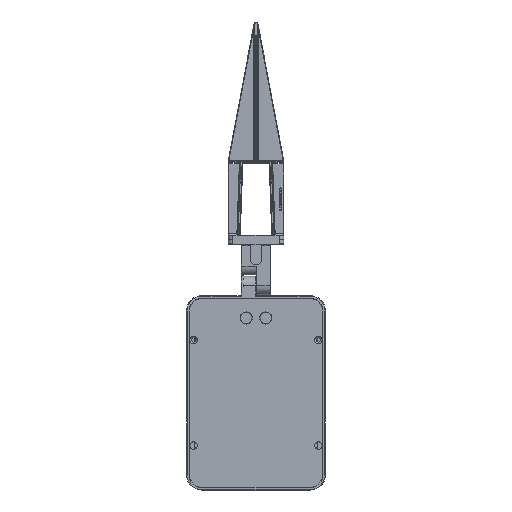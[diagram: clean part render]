
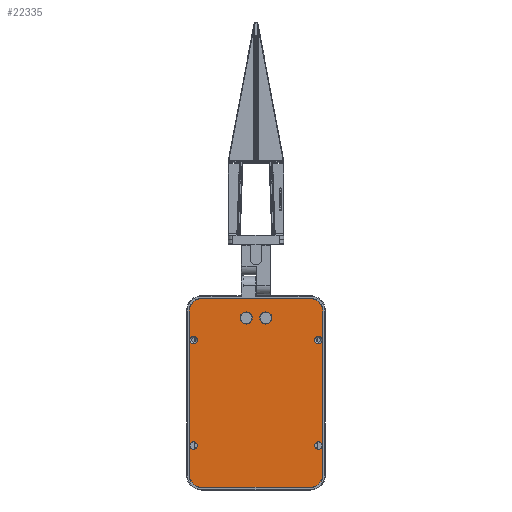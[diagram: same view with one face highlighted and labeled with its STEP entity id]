
A CAD part, front view. The second image highlights one B-rep face of the part: STEP entity #22335.
In plain terms, the highlighted planar face has unit normal (0, -1, 0).
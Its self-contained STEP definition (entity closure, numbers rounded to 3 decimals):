
#9879=CARTESIAN_POINT('',(67.5,0.5,57.));
#9880=DIRECTION('',(0.,-1.,0.));
#9881=DIRECTION('',(1.,0.,0.));
#9882=AXIS2_PLACEMENT_3D('',#9879,#9880,#9881);
#9884=CARTESIAN_POINT('',(67.5,0.5,57.));
#9885=DIRECTION('',(0.,-1.,0.));
#9886=DIRECTION('',(-1.,0.,0.));
#9887=AXIS2_PLACEMENT_3D('',#9884,#9885,#9886);
#9889=CARTESIAN_POINT('',(-67.5,0.5,-57.));
#9890=DIRECTION('',(0.,-1.,0.));
#9891=DIRECTION('',(-1.,0.,0.));
#9892=AXIS2_PLACEMENT_3D('',#9889,#9890,#9891);
#9894=CARTESIAN_POINT('',(-67.5,0.5,-57.));
#9895=DIRECTION('',(0.,-1.,0.));
#9896=DIRECTION('',(1.,0.,0.));
#9897=AXIS2_PLACEMENT_3D('',#9894,#9895,#9896);
#9899=CARTESIAN_POINT('',(-67.5,0.5,57.));
#9900=DIRECTION('',(0.,-1.,0.));
#9901=DIRECTION('',(1.,0.,0.));
#9902=AXIS2_PLACEMENT_3D('',#9899,#9900,#9901);
#9904=CARTESIAN_POINT('',(-67.5,0.5,57.));
#9905=DIRECTION('',(0.,1.,0.));
#9906=DIRECTION('',(1.,0.,0.));
#9907=AXIS2_PLACEMENT_3D('',#9904,#9905,#9906);
#9909=CARTESIAN_POINT('',(67.5,0.5,-57.));
#9910=DIRECTION('',(0.,-1.,0.));
#9911=DIRECTION('',(-1.,0.,0.));
#9912=AXIS2_PLACEMENT_3D('',#9909,#9910,#9911);
#9914=CARTESIAN_POINT('',(67.5,0.5,-57.));
#9915=DIRECTION('',(0.,-1.,0.));
#9916=DIRECTION('',(1.,0.,0.));
#9917=AXIS2_PLACEMENT_3D('',#9914,#9915,#9916);
#9919=CARTESIAN_POINT('',(58.5,0.5,-88.5));
#9920=DIRECTION('',(0.,1.,0.));
#9921=DIRECTION('',(1.,0.,0.));
#9922=AXIS2_PLACEMENT_3D('',#9919,#9920,#9921);
#9924=DIRECTION('',(-1.,0.,0.));
#9925=VECTOR('',#9924,117.);
#9926=CARTESIAN_POINT('',(58.5,0.5,-102.));
#9927=LINE('',#9926,#9925);
#9928=CARTESIAN_POINT('',(-58.5,0.5,-88.5));
#9929=DIRECTION('',(0.,1.,0.));
#9930=DIRECTION('',(0.,0.,-1.));
#9931=AXIS2_PLACEMENT_3D('',#9928,#9929,#9930);
#9933=DIRECTION('',(0.,0.,1.));
#9934=VECTOR('',#9933,177.);
#9935=CARTESIAN_POINT('',(-72.,0.5,-88.5));
#9936=LINE('',#9935,#9934);
#9937=CARTESIAN_POINT('',(-58.5,0.5,88.5));
#9938=DIRECTION('',(0.,1.,0.));
#9939=DIRECTION('',(-1.,0.,0.));
#9940=AXIS2_PLACEMENT_3D('',#9937,#9938,#9939);
#9942=DIRECTION('',(1.,0.,0.));
#9943=VECTOR('',#9942,117.);
#9944=CARTESIAN_POINT('',(-58.5,0.5,102.));
#9945=LINE('',#9944,#9943);
#9946=CARTESIAN_POINT('',(58.5,0.5,88.5));
#9947=DIRECTION('',(0.,1.,0.));
#9948=DIRECTION('',(0.,0.,1.));
#9949=AXIS2_PLACEMENT_3D('',#9946,#9947,#9948);
#9951=DIRECTION('',(0.,0.,-1.));
#9952=VECTOR('',#9951,177.);
#9953=CARTESIAN_POINT('',(72.,0.5,88.5));
#9954=LINE('',#9953,#9952);
#9955=CARTESIAN_POINT('',(-10.65,0.5,81.));
#9956=DIRECTION('',(0.,-1.,0.));
#9957=DIRECTION('',(1.,0.,0.));
#9958=AXIS2_PLACEMENT_3D('',#9955,#9956,#9957);
#9960=CARTESIAN_POINT('',(-10.65,0.5,81.));
#9961=DIRECTION('',(0.,-1.,0.));
#9962=DIRECTION('',(-1.,0.,0.));
#9963=AXIS2_PLACEMENT_3D('',#9960,#9961,#9962);
#9965=CARTESIAN_POINT('',(10.65,0.5,81.));
#9966=DIRECTION('',(0.,-1.,0.));
#9967=DIRECTION('',(1.,0.,0.));
#9968=AXIS2_PLACEMENT_3D('',#9965,#9966,#9967);
#9970=CARTESIAN_POINT('',(10.65,0.5,81.));
#9971=DIRECTION('',(0.,-1.,0.));
#9972=DIRECTION('',(-1.,0.,0.));
#9973=AXIS2_PLACEMENT_3D('',#9970,#9971,#9972);
#19562=CARTESIAN_POINT('',(71.55,0.5,57.));
#19563=CARTESIAN_POINT('',(63.45,0.5,57.));
#19564=VERTEX_POINT('',#19562);
#19565=VERTEX_POINT('',#19563);
#19570=CARTESIAN_POINT('',(58.5,0.5,-102.));
#19571=CARTESIAN_POINT('',(72.,0.5,-88.5));
#19572=VERTEX_POINT('',#19570);
#19573=VERTEX_POINT('',#19571);
#19574=CARTESIAN_POINT('',(72.,0.5,88.5));
#19575=VERTEX_POINT('',#19574);
#19576=CARTESIAN_POINT('',(58.5,0.5,102.));
#19577=VERTEX_POINT('',#19576);
#19578=CARTESIAN_POINT('',(-58.5,0.5,102.));
#19579=VERTEX_POINT('',#19578);
#19580=CARTESIAN_POINT('',(-72.,0.5,88.5));
#19581=VERTEX_POINT('',#19580);
#19582=CARTESIAN_POINT('',(-72.,0.5,-88.5));
#19583=VERTEX_POINT('',#19582);
#19584=CARTESIAN_POINT('',(-58.5,0.5,-102.));
#19585=VERTEX_POINT('',#19584);
#19602=CARTESIAN_POINT('',(-71.55,0.5,-57.));
#19603=CARTESIAN_POINT('',(-63.45,0.5,-57.));
#19604=VERTEX_POINT('',#19602);
#19605=VERTEX_POINT('',#19603);
#19610=CARTESIAN_POINT('',(-71.55,0.5,57.));
#19611=VERTEX_POINT('',#19610);
#19612=CARTESIAN_POINT('',(-63.45,0.5,57.));
#19613=VERTEX_POINT('',#19612);
#19614=CARTESIAN_POINT('',(71.55,0.5,-57.));
#19615=CARTESIAN_POINT('',(63.45,0.5,-57.));
#19616=VERTEX_POINT('',#19614);
#19617=VERTEX_POINT('',#19615);
#19893=CARTESIAN_POINT('',(-17.2,0.5,81.));
#19894=CARTESIAN_POINT('',(-4.1,0.5,81.));
#19895=VERTEX_POINT('',#19893);
#19896=VERTEX_POINT('',#19894);
#19897=CARTESIAN_POINT('',(4.1,0.5,81.));
#19898=CARTESIAN_POINT('',(17.2,0.5,81.));
#19899=VERTEX_POINT('',#19897);
#19900=VERTEX_POINT('',#19898);
#22276=CARTESIAN_POINT('',(0.,0.5,0.));
#22277=DIRECTION('',(0.,1.,0.));
#22278=DIRECTION('',(1.,0.,0.));
#22279=AXIS2_PLACEMENT_3D('',#22276,#22277,#22278);
#22280=PLANE('',#22279);
#22282=ORIENTED_EDGE('',*,*,#22281,.T.);
#22284=ORIENTED_EDGE('',*,*,#22283,.T.);
#22286=ORIENTED_EDGE('',*,*,#22285,.T.);
#22288=ORIENTED_EDGE('',*,*,#22287,.T.);
#22290=ORIENTED_EDGE('',*,*,#22289,.T.);
#22292=ORIENTED_EDGE('',*,*,#22291,.T.);
#22294=ORIENTED_EDGE('',*,*,#22293,.T.);
#22296=ORIENTED_EDGE('',*,*,#22295,.T.);
#22297=EDGE_LOOP('',(#22282,#22284,#22286,#22288,#22290,#22292,#22294,#22296));
#22298=FACE_OUTER_BOUND('',#22297,.F.);
#22300=ORIENTED_EDGE('',*,*,#22299,.T.);
#22302=ORIENTED_EDGE('',*,*,#22301,.T.);
#22303=EDGE_LOOP('',(#22300,#22302));
#22304=FACE_BOUND('',#22303,.F.);
#22306=ORIENTED_EDGE('',*,*,#22305,.T.);
#22308=ORIENTED_EDGE('',*,*,#22307,.F.);
#22309=EDGE_LOOP('',(#22306,#22308));
#22310=FACE_BOUND('',#22309,.F.);
#22312=ORIENTED_EDGE('',*,*,#22311,.T.);
#22314=ORIENTED_EDGE('',*,*,#22313,.T.);
#22315=EDGE_LOOP('',(#22312,#22314));
#22316=FACE_BOUND('',#22315,.F.);
#22318=ORIENTED_EDGE('',*,*,#22317,.T.);
#22320=ORIENTED_EDGE('',*,*,#22319,.T.);
#22321=EDGE_LOOP('',(#22318,#22320));
#22322=FACE_BOUND('',#22321,.F.);
#22324=ORIENTED_EDGE('',*,*,#22323,.T.);
#22326=ORIENTED_EDGE('',*,*,#22325,.T.);
#22327=EDGE_LOOP('',(#22324,#22326));
#22328=FACE_BOUND('',#22327,.F.);
#22330=ORIENTED_EDGE('',*,*,#22329,.T.);
#22332=ORIENTED_EDGE('',*,*,#22331,.T.);
#22333=EDGE_LOOP('',(#22330,#22332));
#22334=FACE_BOUND('',#22333,.F.);
#22335=ADVANCED_FACE('',(#22298,#22304,#22310,#22316,#22322,#22328,#22334),
#22280,.F.);
#9883=CIRCLE('',#9882,4.05);
#9888=CIRCLE('',#9887,4.05);
#9893=CIRCLE('',#9892,4.05);
#9898=CIRCLE('',#9897,4.05);
#9903=CIRCLE('',#9902,4.05);
#9908=CIRCLE('',#9907,4.05);
#9913=CIRCLE('',#9912,4.05);
#9918=CIRCLE('',#9917,4.05);
#9923=CIRCLE('',#9922,13.5);
#9932=CIRCLE('',#9931,13.5);
#9941=CIRCLE('',#9940,13.5);
#9950=CIRCLE('',#9949,13.5);
#9959=CIRCLE('',#9958,6.55);
#9964=CIRCLE('',#9963,6.55);
#9969=CIRCLE('',#9968,6.55);
#9974=CIRCLE('',#9973,6.55);
#22281=EDGE_CURVE('',#19573,#19572,#9923,.T.);
#22283=EDGE_CURVE('',#19572,#19585,#9927,.T.);
#22285=EDGE_CURVE('',#19585,#19583,#9932,.T.);
#22287=EDGE_CURVE('',#19583,#19581,#9936,.T.);
#22289=EDGE_CURVE('',#19581,#19579,#9941,.T.);
#22291=EDGE_CURVE('',#19579,#19577,#9945,.T.);
#22293=EDGE_CURVE('',#19577,#19575,#9950,.T.);
#22295=EDGE_CURVE('',#19575,#19573,#9954,.T.);
#22299=EDGE_CURVE('',#19604,#19605,#9893,.T.);
#22301=EDGE_CURVE('',#19605,#19604,#9898,.T.);
#22305=EDGE_CURVE('',#19613,#19611,#9903,.T.);
#22307=EDGE_CURVE('',#19613,#19611,#9908,.T.);
#22311=EDGE_CURVE('',#19617,#19616,#9913,.T.);
#22313=EDGE_CURVE('',#19616,#19617,#9918,.T.);
#22317=EDGE_CURVE('',#19564,#19565,#9883,.T.);
#22319=EDGE_CURVE('',#19565,#19564,#9888,.T.);
#22323=EDGE_CURVE('',#19896,#19895,#9959,.T.);
#22325=EDGE_CURVE('',#19895,#19896,#9964,.T.);
#22329=EDGE_CURVE('',#19900,#19899,#9969,.T.);
#22331=EDGE_CURVE('',#19899,#19900,#9974,.T.);
